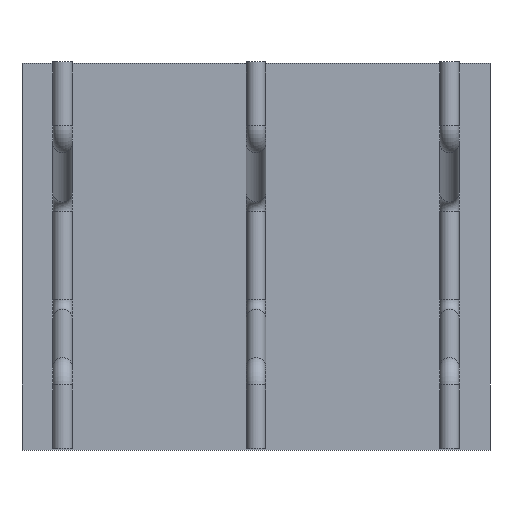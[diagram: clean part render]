
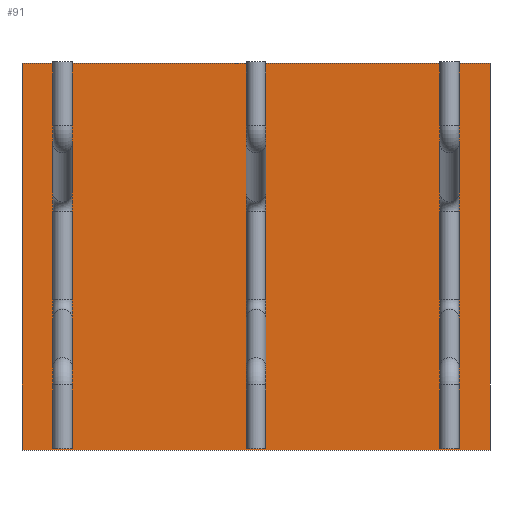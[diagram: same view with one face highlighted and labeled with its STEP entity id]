
A CAD part, top view. The second image highlights one B-rep face of the part: STEP entity #91.
In plain terms, the highlighted planar face has unit normal (0, 0, 1).
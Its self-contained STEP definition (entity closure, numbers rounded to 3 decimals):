
#52=CARTESIAN_POINT('Axis2P3D Location',(0.,0.,0.)) ;
#57=CARTESIAN_POINT('Line Origine',(0.,500.,0.)) ;
#61=CARTESIAN_POINT('Vertex',(605.,500.,0.)) ;
#63=CARTESIAN_POINT('Vertex',(-605.,500.,0.)) ;
#66=CARTESIAN_POINT('Line Origine',(-605.,0.,0.)) ;
#70=CARTESIAN_POINT('Vertex',(-605.,-500.,0.)) ;
#73=CARTESIAN_POINT('Line Origine',(0.,-500.,0.)) ;
#77=CARTESIAN_POINT('Vertex',(605.,-500.,0.)) ;
#80=CARTESIAN_POINT('Line Origine',(605.,0.,0.)) ;
#53=DIRECTION('Axis2P3D Direction',(0.,0.,1.)) ;
#54=DIRECTION('Axis2P3D XDirection',(1.,0.,0.)) ;
#58=DIRECTION('Vector Direction',(1.,0.,0.)) ;
#67=DIRECTION('Vector Direction',(0.,1.,0.)) ;
#74=DIRECTION('Vector Direction',(-1.,0.,0.)) ;
#81=DIRECTION('Vector Direction',(0.,-1.,0.)) ;
#55=AXIS2_PLACEMENT_3D('Plane Axis2P3D',#52,#53,#54) ;
#86=ORIENTED_EDGE('',*,*,#65,.T.) ;
#87=ORIENTED_EDGE('',*,*,#72,.T.) ;
#88=ORIENTED_EDGE('',*,*,#79,.T.) ;
#89=ORIENTED_EDGE('',*,*,#84,.T.) ;
#59=VECTOR('Line Direction',#58,1.) ;
#68=VECTOR('Line Direction',#67,1.) ;
#75=VECTOR('Line Direction',#74,1.) ;
#82=VECTOR('Line Direction',#81,1.) ;
#91=ADVANCED_FACE('Fill.1',(#90),#56,.T.) ;
#65=EDGE_CURVE('',#62,#64,#60,.F.) ;
#72=EDGE_CURVE('',#64,#71,#69,.F.) ;
#79=EDGE_CURVE('',#71,#78,#76,.F.) ;
#84=EDGE_CURVE('',#78,#62,#83,.F.) ;
#85=EDGE_LOOP('',(#86,#87,#88,#89)) ;
#90=FACE_OUTER_BOUND('',#85,.T.) ;
#60=LINE('Line',#57,#59) ;
#69=LINE('Line',#66,#68) ;
#76=LINE('Line',#73,#75) ;
#83=LINE('Line',#80,#82) ;
#56=PLANE('',#55) ;
#62=VERTEX_POINT('',#61) ;
#64=VERTEX_POINT('',#63) ;
#71=VERTEX_POINT('',#70) ;
#78=VERTEX_POINT('',#77) ;
